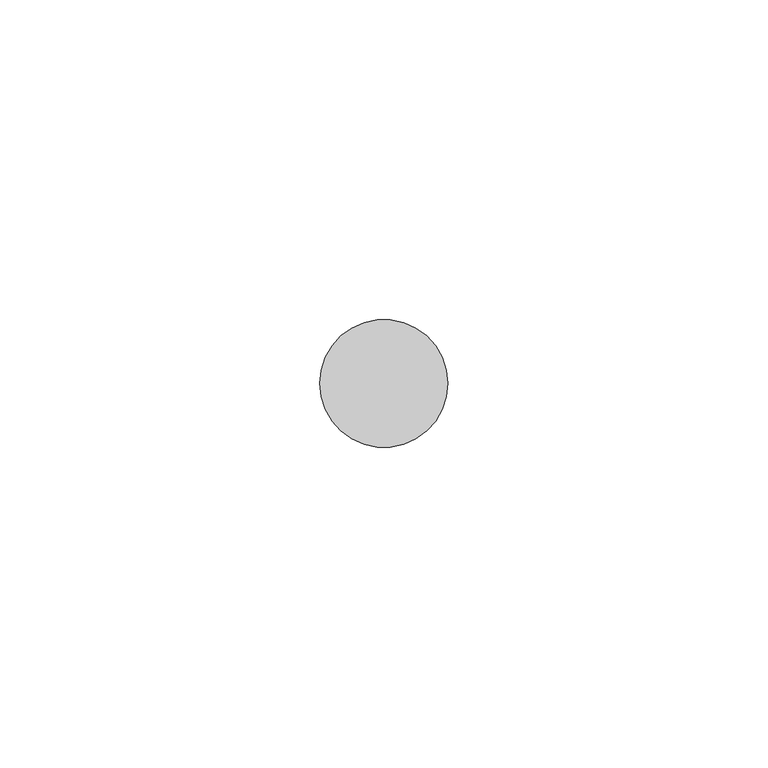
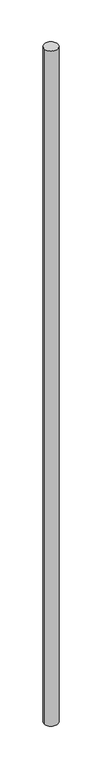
"""IFC4 building model written with IfcOpenShell, lengths in millimetres: member geometry, Импост круглого сечения : Радиус 25 мм."""

from ifc_helpers import new_model, si_unit, point, frame, frame_2d, origin, place, context, project, spatial, circle_curve, trimmed, segment, composite_curve, outline, extrude, source, transform, mapped, element, save


def member_5c61a606(model_context):
    return source(origin(), model_context, "Body", "SweptSolid", [
        extrude(outline(composite_curve([segment(trimmed(circle_curve(frame_2d((-10.0, 0.0)), 10.0), [point((0.0, 0.0))], [point((-20.0, 0.0))], False, "CARTESIAN"), True, "CONTINUOUS"), segment(trimmed(circle_curve(frame_2d((-10.0, 0.0)), 10.0), [point((-20.0, 0.0))], [point((0.0, 0.0))], False, "CARTESIAN"), True, "CONTINUOUS")], self_intersect=False)), frame((0.0, 0.0, -1025.3034414), z_axis=(0.0, 0.0, 1.0), x_axis=(1.0, 0.0, 0.0)), (0.0, 0.0, 1.0), 1025.3034414),
    ])


if __name__ == "__main__":
    model = new_model("IFC4")
    model_context = context("Model", 3, world=origin())
    ifc_project = project(units=[si_unit("LENGTHUNIT", "METRE", prefix="MILLI")], contexts=[model_context])
    site = spatial("IfcSite", under=ifc_project)
    building = spatial("IfcBuilding", under=site)
    placement = place(None, origin())
    member_shape = member_5c61a606(model_context)
    element("IfcMember", 1, ObjectType="Импост круглого сечения : Радиус 25 мм", at=placement, inside=building, context=model_context, shape_type="MappedRepresentation", body=[
        mapped(member_shape, transform((0.0, 0.0, 0.0), x_axis=(1.0, 0.0, 0.0), y_axis=(0.0, 1.0, 0.0), z_axis=(0.0, 0.0, 1.0))),
    ])
    save(model, "model.ifc")
